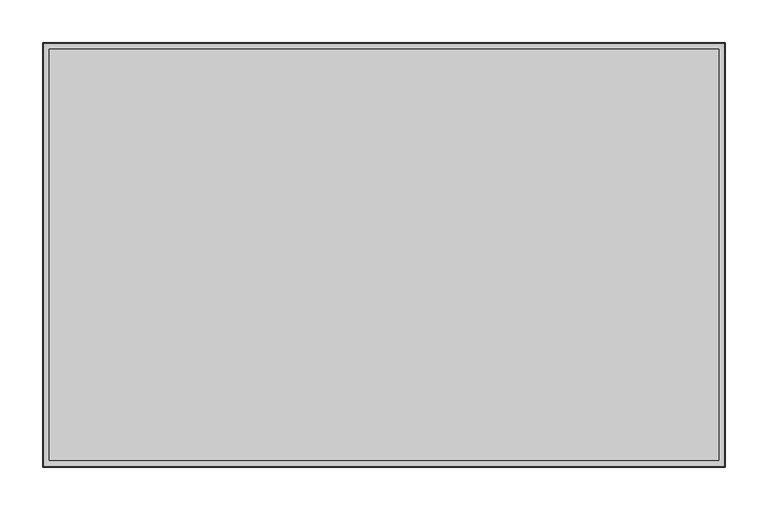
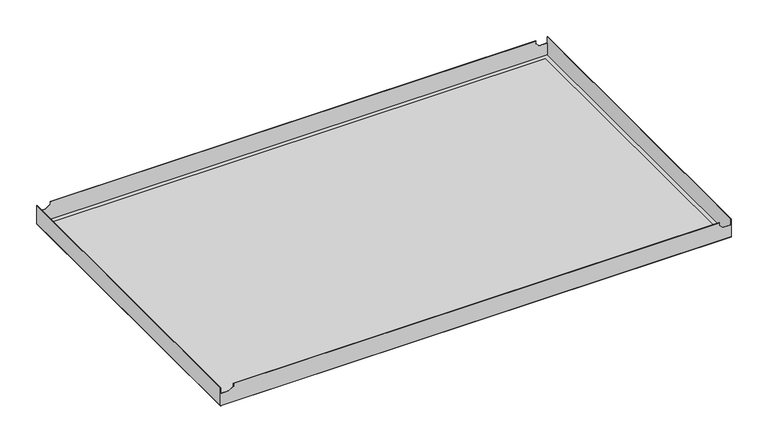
"""IFC4 building model written with IfcOpenShell, lengths in millimetres: proxy geometry, durlum_S1.12KD_panel : durlum_S1.12KD_panel_wall_corner."""

from ifc_helpers import new_model, si_unit, frame, origin, origin_with_axes, place, context, project, spatial, polyline, outline, extrude, faceted_brep, source, transform, mapped, element, save


def generic_models_cc1ed79e(model_context):
    return source(origin(), model_context, "Body", "SolidModel", [
        faceted_brep([(-400.0, 249.0, 30.0), (-400.0, -249.0, 30.0), (-399.4, -249.0, 30.0), (-399.4, 249.0, 30.0), (400.0, -249.0, 30.0), (400.0, 249.0, 30.0), (399.4, 249.0, 30.0), (399.4, -249.0, 30.0), (-379.4, 249.0, 30.0), (-379.4, 248.4, 30.0), (381.4, 248.4, 30.0), (381.4, 249.0, 30.0), (-379.4, -248.4, 30.0), (-379.4, -249.0, 30.0), (381.4, -249.0, 30.0), (381.4, -248.4, 30.0), (400.0, 249.0, 0.6), (400.0, -249.0, 0.6), (-400.0, -249.0, 0.6), (-400.0, 249.0, 0.6), (399.4, 248.4, 0.6), (-399.4, 248.4, 0.6), (-399.4, -248.4, 0.6), (399.4, -248.4, 0.6), (-399.4, 249.0, 20.1669893), (-386.6658218, 249.0, 20.1669893), (-379.4, 249.0, 25.4328111), (381.4, 249.0, 25.4469988), (386.6800094, 249.0, 20.1669893), (399.4, 249.0, 20.1669893), (399.4, -249.0, 20.1669893), (386.6800094, -249.0, 20.1669893), (381.4, -249.0, 25.4469988), (-379.4, -249.0, 25.4328111), (-386.6658218, -249.0, 20.1669893), (-399.4, -249.0, 20.1669893), (399.4, 248.4, 20.1669893), (399.4, -248.4, 20.1669893), (-399.4, -248.4, 20.1669893), (-386.6658218, -248.4, 20.1669893), (-379.4, -248.4, 25.4328111), (381.4, -248.4, 25.4469988), (386.6800094, -248.4, 20.1669893), (-399.4, 248.4, 20.1669893), (386.6800094, 248.4, 20.1669893), (381.4, 248.4, 25.4469988), (-379.4, 248.4, 25.4328111), (-386.6658218, 248.4, 20.1669893)], [[[0, 1, 2, 3]], [[4, 5, 6, 7]], [[8, 9, 10, 11]], [[12, 13, 14, 15]], [[16, 17, 18, 19], [20, 21, 22, 23]], [[16, 19, 0, 3, 24, 25, 26, 8, 11, 27, 28, 29, 6, 5]], [[1, 0, 19, 18]], [[18, 17, 4, 7, 30, 31, 32, 14, 13, 33, 34, 35, 2, 1]], [[5, 4, 17, 16]], [[6, 29, 36, 20, 23, 37, 30, 7]], [[23, 22, 38, 39, 40, 12, 15, 41, 42, 37]], [[22, 21, 43, 24, 3, 2, 35, 38]], [[21, 20, 36, 44, 45, 10, 9, 46, 47, 43]], [[38, 35, 34, 39]], [[24, 43, 47, 25]], [[39, 34, 33, 40]], [[25, 47, 46, 26]], [[40, 33, 13, 12]], [[26, 46, 9, 8]], [[36, 29, 28, 44]], [[30, 37, 42, 31]], [[44, 28, 27, 45]], [[31, 42, 41, 32]], [[32, 41, 15, 14]], [[45, 27, 11, 10]]]),
        extrude(outline(polyline([(392.0, 241.0), (392.0, -241.0), (-392.0, -241.0), (-392.0, 241.0), (392.0, 241.0)])), frame((0.0, 0.0, 0.6), z_axis=(0.0, 0.0, 1.0), x_axis=(1.0, 0.0, 0.0)), (0.0, 0.0, 1.0), 0.6),
        extrude(outline(polyline([(400.0, 249.0), (400.0, -249.0), (-400.0, -249.0), (-400.0, 249.0), (400.0, 249.0)]), holes=[polyline([(392.0, 241.0), (-392.0, 241.0), (-392.0, -241.0), (392.0, -241.0), (392.0, 241.0)])]), origin_with_axes(), (0.0, 0.0, 1.0), 0.6),
        extrude(outline(polyline([(392.0, 241.0), (392.0, -241.0), (-392.0, -241.0), (-392.0, 241.0), (392.0, 241.0)])), origin_with_axes(), (0.0, 0.0, 1.0), 0.6),
    ])


if __name__ == "__main__":
    model = new_model("IFC4")
    model_context = context("Model", 3, world=origin())
    ifc_project = project(units=[si_unit("LENGTHUNIT", "METRE", prefix="MILLI")], contexts=[model_context])
    site = spatial("IfcSite", under=ifc_project)
    building = spatial("IfcBuilding", under=site)
    placement = place(None, origin())
    generic_models_shape = generic_models_cc1ed79e(model_context)
    element("IfcBuildingElementProxy", 1, Name="durlum_S1.12KD_panel : durlum_S1.12KD_panel_wall_corner", ObjectType="durlum_S1.12KD_panel : durlum_S1.12KD_panel_wall_corner", at=placement, inside=building, context=model_context, shape_type="MappedRepresentation", body=[
        mapped(generic_models_shape, transform((0.0, 0.0, 0.0), x_axis=(1.0, 0.0, 0.0), y_axis=(0.0, 1.0, 0.0), z_axis=(0.0, 0.0, 1.0))),
    ])
    save(model, "model.ifc")
